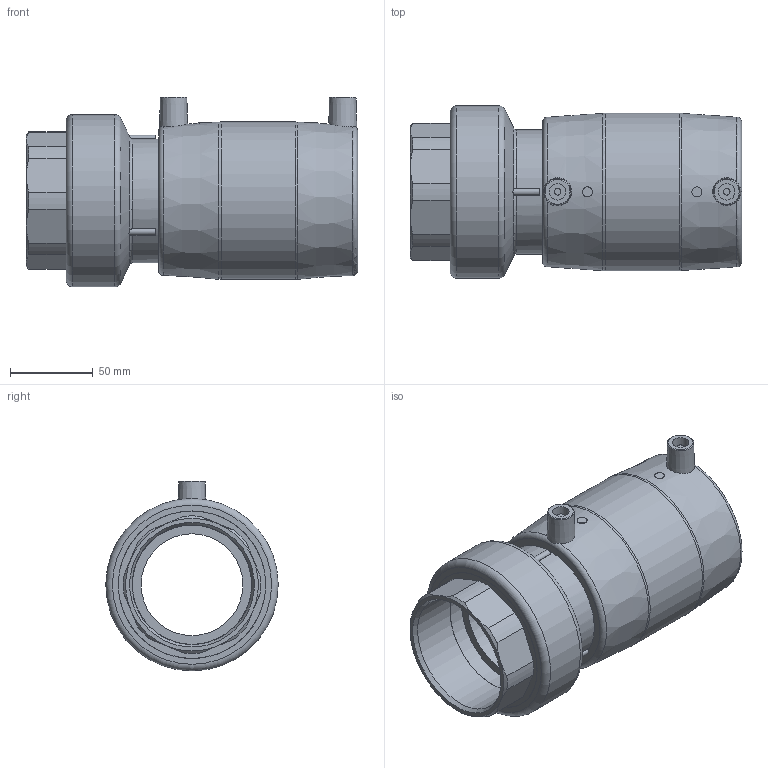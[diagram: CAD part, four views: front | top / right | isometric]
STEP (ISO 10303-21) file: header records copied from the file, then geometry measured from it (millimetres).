
FILE_DESCRIPTION(/* description */ ('Unknown'),/* implementation_level */ '2;1');
FILE_NAME(/* name */ 'MTFP075C',/* time_stamp */ '2021-03-02T09:37:17+01:00',/* author */ ('Unknown'),/* organization */ ('Unknown'),/* preprocessor_version */ 'ST-DEVELOPER v16.7',/* originating_system */ 'Solid Edge',/* authorisation */ 'Unknown');
FILE_SCHEMA (('AUTOMOTIVE_DESIGN {1 0 10303 214 3 1 1}'));
Length unit declared in the file: millimetre
Products named in the file (5): MTFP075C; MP075C; RTOFP075C; Parte PE 075; IOF075C
Assembly tree (4 placements, depth 3):
  MTFP075C
    MP075C
    RTOFP075C
      Parte PE 075
      IOF075C
Bounding box: 199.8 x 104 x 114.5 mm (x, y, z)
Volume: 616350.6 mm3; surface area: 177124.7 mm2
Topology: 3 solids, 3 shells, 213 faces, 516 edges, 332 vertices
Faces by surface type: plane 115, cylinder 51, torus 17, cone 15, bspline 15
Full cylindrical faces by diameter (mm): 4 x2, 6 x2, 10 x2, 61.4 x1, 67 x2, 72 x2, 72.226 x1, 75 x2, 83 x4, 83.4 x2, 89 x8, 95 x1, 104 x1
Entity records: 6770 total; most frequent: CARTESIAN_POINT 1414, DIRECTION 1012, ORIENTED_EDGE 898, EDGE_CURVE 449, AXIS2_PLACEMENT_3D 412, VERTEX_POINT 311, EDGE_LOOP 288, FACE_BOUND 288
